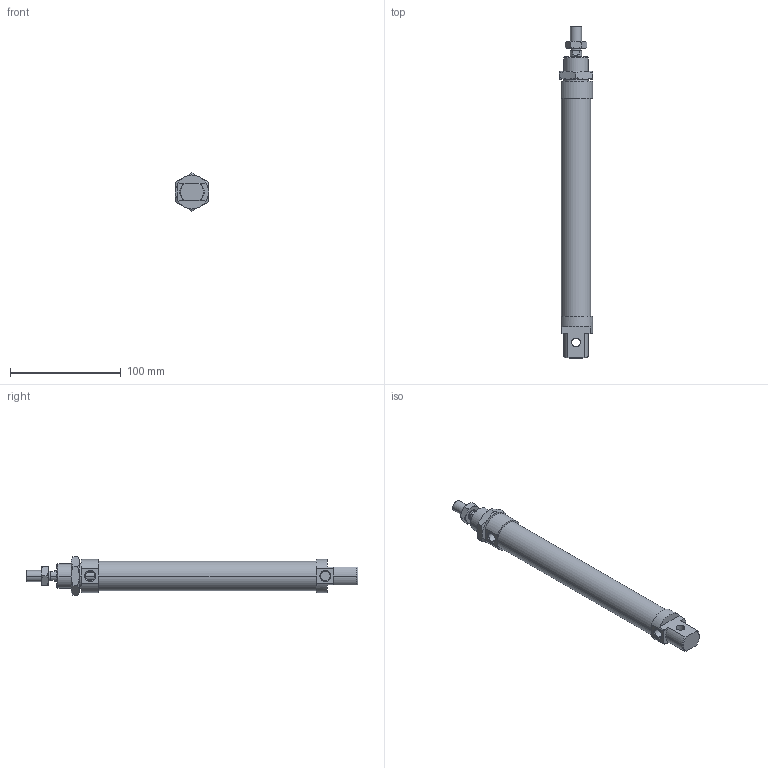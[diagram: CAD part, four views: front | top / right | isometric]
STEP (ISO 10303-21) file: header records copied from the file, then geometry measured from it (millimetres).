
FILE_DESCRIPTION((''),'2;1');
FILE_NAME('I:\DOC-EDP\Lib-3d\1200\CILINDRI\1280\1280_25_0160.stp','2003-04-07T18:00:33',('maffial1'),(''),'Autodesk Inventor (R) 6.0','Autodesk Inventor (R) 6.0','');
FILE_SCHEMA(('AUTOMOTIVE_DESIGN { 1 0 10303 214 1 1 1 1 }'));
Length unit declared in the file: millimetre
Products named in the file (5): 1280_25_0160; S1280_25_160; 1200_25_05; 1200_25_06; C1280_25_160
Assembly tree (4 placements, depth 2):
  1280_25_0160
    S1280_25_160
    1200_25_05
    1200_25_06
    C1280_25_160
Bounding box: 30 x 300 x 34.64 mm (x, y, z)
Volume: 148334.5 mm3; surface area: 40799.4 mm2
Topology: 4 solids, 4 shells, 124 faces, 281 edges, 170 vertices
Faces by surface type: plane 41, cone 40, cylinder 22, bspline 21
Entity records: 3808 total; most frequent: CARTESIAN_POINT 1031, DIRECTION 573, ORIENTED_EDGE 562, EDGE_CURVE 281, AXIS2_PLACEMENT_3D 236, VERTEX_POINT 170, EDGE_LOOP 137, FACE_OUTER_BOUND 124
